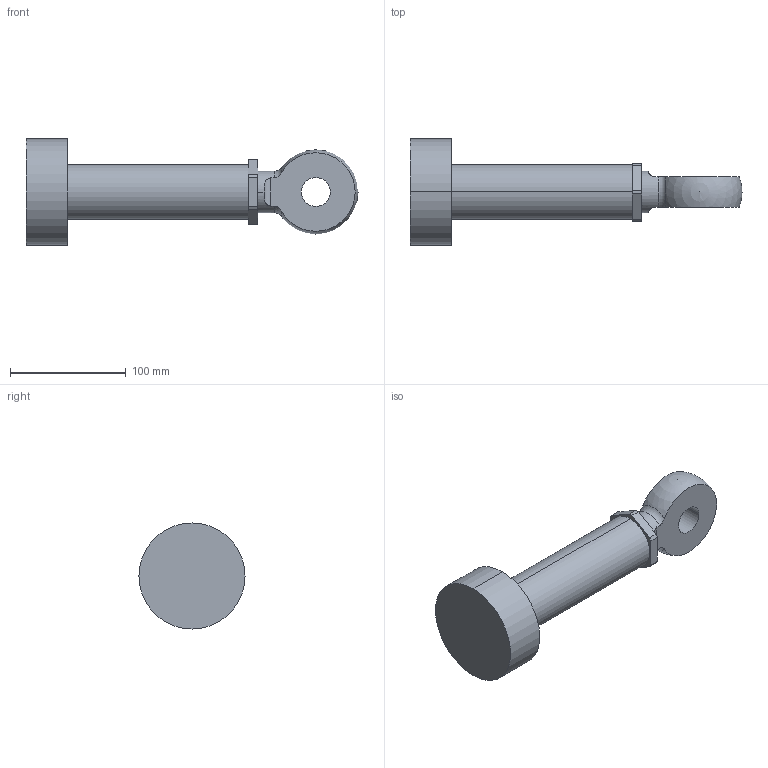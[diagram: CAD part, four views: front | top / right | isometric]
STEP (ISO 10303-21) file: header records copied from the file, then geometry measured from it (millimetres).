
FILE_DESCRIPTION (( 'STEP AP203' ), '1' );
FILE_NAME ('huosaigan.STEP', '2023-04-06T07:05:30', ( '' ), ( '' ), 'SwSTEP 2.0', 'SolidWorks 2016', '' );
FILE_SCHEMA (( 'CONFIG_CONTROL_DESIGN' ));
Length unit declared in the file: millimetre
Products named in the file (1): huosaigan
Bounding box: 287.4 x 91.9 x 91.9 mm (x, y, z)
Volume: 642432.4 mm3; surface area: 63918.7 mm2
Topology: 1 solids, 2 shells, 35 faces, 94 edges, 62 vertices
Faces by surface type: cylinder 16, plane 13, sphere 2, torus 2, cone 2
Entity records: 1269 total; most frequent: CARTESIAN_POINT 332, DIRECTION 188, ORIENTED_EDGE 172, EDGE_CURVE 86, AXIS2_PLACEMENT_3D 74, VERTEX_POINT 58, LINE 40, VECTOR 40
